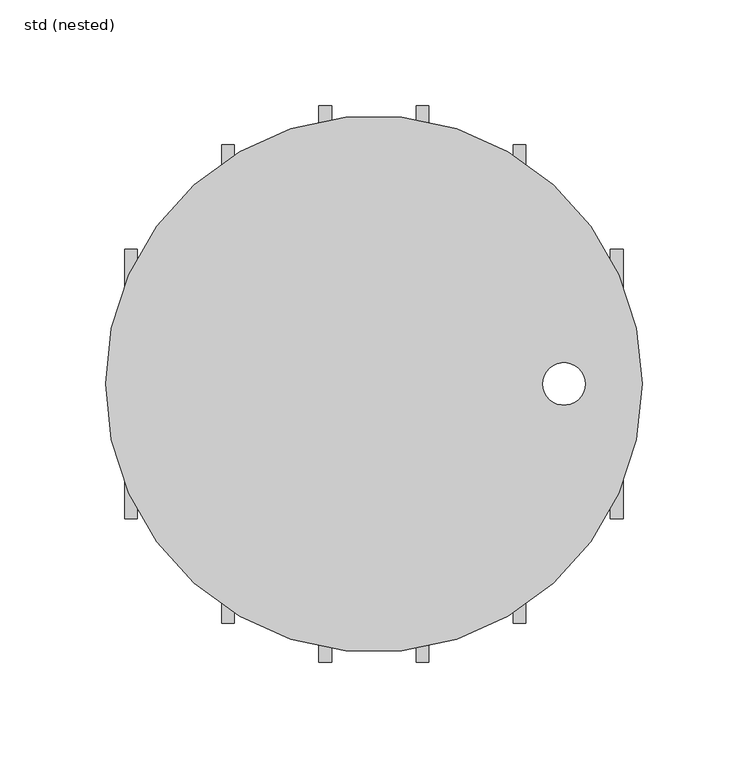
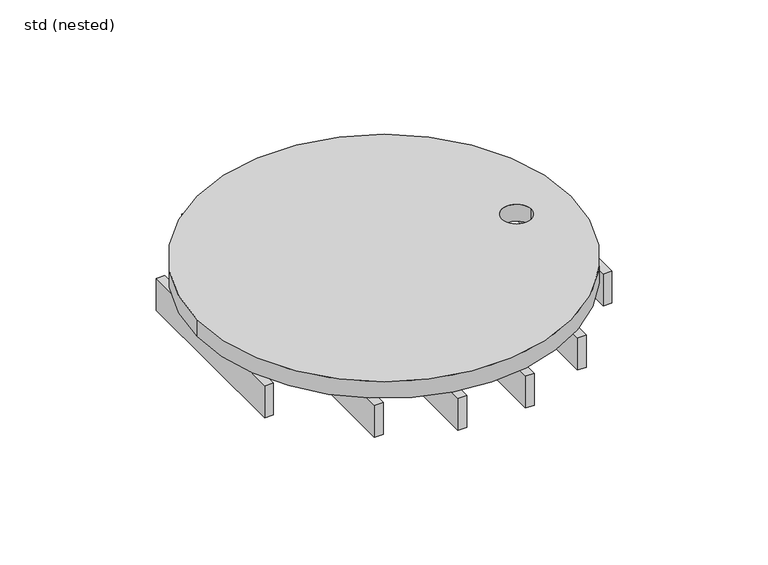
"""IFC4 building model written with IfcOpenShell, lengths in millimetres: sanitary terminal geometry, ZZZ_do not use_PF_ST_UN_round grating for hygienic gully_ACO : std (nested)."""

from ifc_helpers import new_model, si_unit, point, frame, frame_2d, origin, origin_2d, place, context, project, spatial, polyline, circle_curve, trimmed, segment, composite_curve, outline, extrude, source, transform, mapped, element, save


def std_nested_b2754624(model_context):
    return source(origin(), model_context, "Body", "SweptSolid", [
        extrude(outline(composite_curve([segment(trimmed(circle_curve(origin_2d(), 127.0), [point((-127.0, 0.0))], [point((127.0, 0.0))], False, "CARTESIAN"), True, "CONTINUOUS"), segment(trimmed(circle_curve(origin_2d(), 127.0), [point((127.0, 0.0))], [point((-127.0, 0.0))], False, "CARTESIAN"), True, "CONTINUOUS")], self_intersect=False), holes=[composite_curve([segment(trimmed(circle_curve(frame_2d((90.0, 0.0)), 10.0), [point((80.0, 0.0))], [point((100.0, 0.0))], True, "CARTESIAN"), True, "CONTINUOUS"), segment(trimmed(circle_curve(frame_2d((90.0, 0.0)), 10.0), [point((100.0, 0.0))], [point((80.0, 0.0))], True, "CARTESIAN"), True, "CONTINUOUS")], self_intersect=False)]), frame((0.0, 0.0, -12.0), z_axis=(0.0, 0.0, 1.0), x_axis=(1.0, 0.0, 0.0)), (0.0, 0.0, 1.0), 12.0),
        extrude(outline(polyline([(-112.0, 63.8), (-112.0, -63.8), (-118.0, -63.8), (-118.0, 63.8), (-112.0, 63.8)])), frame((0.0, 0.0, -35.0), z_axis=(0.0, 0.0, 1.0), x_axis=(1.0, 0.0, 0.0)), (0.0, 0.0, 1.0), 23.0),
        extrude(outline(polyline([(-66.0, 113.3), (-66.0, -113.3), (-72.0, -113.3), (-72.0, 113.3), (-66.0, 113.3)])), frame((0.0, 0.0, -35.0), z_axis=(0.0, 0.0, 1.0), x_axis=(1.0, 0.0, 0.0)), (0.0, 0.0, 1.0), 23.0),
        extrude(outline(polyline([(-20.0, 131.8), (-20.0, -131.8), (-26.0, -131.8), (-26.0, 131.8), (-20.0, 131.8)])), frame((0.0, 0.0, -35.0), z_axis=(0.0, 0.0, 1.0), x_axis=(1.0, 0.0, 0.0)), (0.0, 0.0, 1.0), 23.0),
        extrude(outline(polyline([(26.0000026, 131.8), (26.0000026, -131.8), (20.0, -131.8), (20.0, 131.8), (26.0000026, 131.8)])), frame((0.0, 0.0, -35.0), z_axis=(0.0, 0.0, 1.0), x_axis=(1.0, 0.0, 0.0)), (0.0, 0.0, 1.0), 23.0),
        extrude(outline(polyline([(72.0, 113.3), (72.0, -113.3), (66.0, -113.3), (66.0, 113.3), (72.0, 113.3)])), frame((0.0, 0.0, -35.0), z_axis=(0.0, 0.0, 1.0), x_axis=(1.0, 0.0, 0.0)), (0.0, 0.0, 1.0), 23.0),
        extrude(outline(polyline([(118.0000123, 63.8), (118.0000123, -63.8000023), (112.0, -63.8000023), (112.0, 63.8), (118.0000123, 63.8)])), frame((0.0, 0.0, -35.0), z_axis=(0.0, 0.0, 1.0), x_axis=(1.0, 0.0, 0.0)), (0.0, 0.0, 1.0), 23.0),
    ])


if __name__ == "__main__":
    model = new_model("IFC4")
    model_context = context("Model", 3, world=origin())
    ifc_project = project(units=[si_unit("LENGTHUNIT", "METRE", prefix="MILLI")], contexts=[model_context])
    site = spatial("IfcSite", under=ifc_project)
    building = spatial("IfcBuilding", under=site)
    placement = place(None, origin())
    std_nested_shape = std_nested_b2754624(model_context)
    element("IfcSanitaryTerminal", 1, ObjectType="ZZZ_do not use_PF_ST_UN_round grating for hygienic gully_ACO : std (nested)", at=placement, inside=building, context=model_context, shape_type="MappedRepresentation", body=[
        mapped(std_nested_shape, transform((0.0, 0.0, 0.0), x_axis=(1.0, 0.0, 0.0), y_axis=(0.0, 1.0, 0.0), z_axis=(0.0, 0.0, 1.0))),
    ])
    save(model, "model.ifc")
